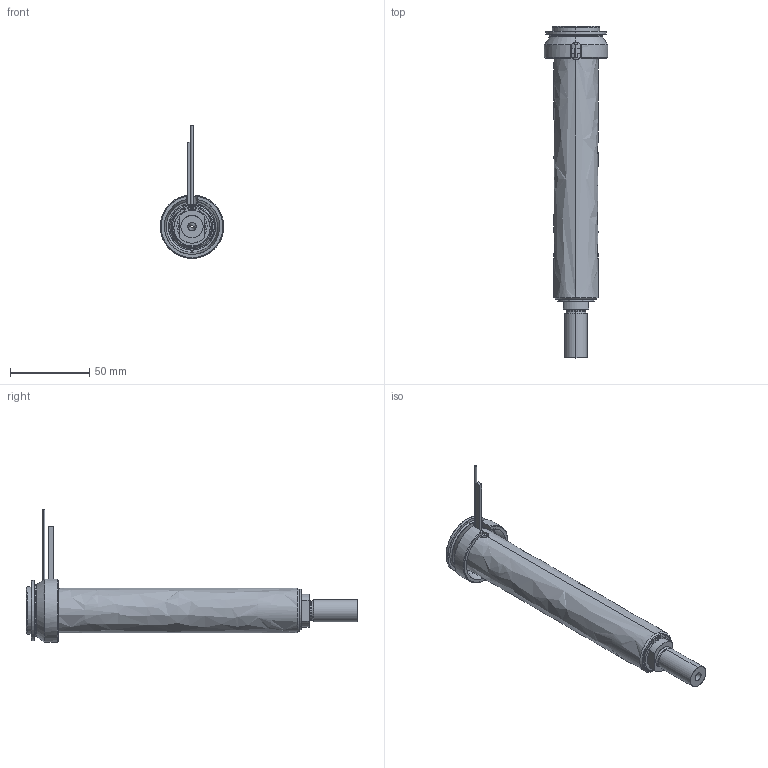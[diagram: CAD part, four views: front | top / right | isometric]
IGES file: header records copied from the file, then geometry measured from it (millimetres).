
Start section: SolidWorks IGES file using analytic representation for surfaces
Global section: file name: C:\Documents and Settings\ws-20\Desktop\TEMPORANEA\UGBE4004-M-A-P-3 [Ød-2.0 P-25 ØC-10].IGS; native system: SolidWorks 2012; preprocessor: SolidWorks 2012; author: ws-20; date: 120306.141019; units: millimetre
Bounding box: 40 x 209.25 x 83.65 mm (x, y, z)
Surface area: 55957.5 mm2 (no closed solid volume)
Topology: 0 solids, 0 shells, 104 faces, 1761 edges, 1761 vertices
Faces by surface type: revolution 60, bspline 44
